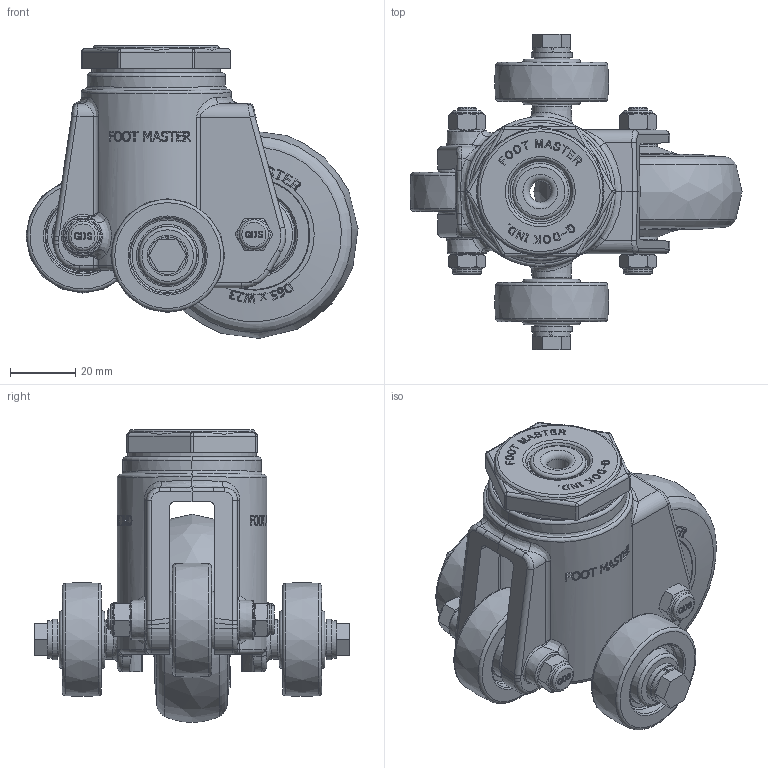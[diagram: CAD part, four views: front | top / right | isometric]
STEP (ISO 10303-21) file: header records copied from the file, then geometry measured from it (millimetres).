
FILE_DESCRIPTION(/* description */ (''),/* implementation_level */ '2;1');
FILE_NAME(/* name */ '\\192.168.10.38\지덕공유\1.기술연구소\2.연구개발 진행중\117.Step Wheel Caster_2024.11.02\1.도면\1.3D\GAMR-65-ASF_신규\GSTEP-65-ASS-EUS 홈페이지용.stp',/* time_stamp */ '2025-12-04T18:34:43+09:00',/* author */ ('admin'),/* organization */ (''),/* preprocessor_version */ 'ST-DEVELOPER v18.1',/* originating_system */ 'Autodesk Inventor 2021',/* authorisation */ '');
FILE_SCHEMA (('CONFIG_CONTROL_DESIGN'));
Products named in the file (1): GSTEP-65-ASS-EUS 홈페이지용_Shrinkwr
ap_1
Bounding box: 101.96 x 96.8 x 89.95 mm (x, y, z)
Volume: 170521.2 mm3; surface area: 45470.9 mm2
Topology: 1 solids, 1 shells, 1462 faces, 3955 edges, 2599 vertices
Faces by surface type: plane 637, bspline 525, cylinder 120, cone 98, torus 76, sphere 6
Full cylindrical faces by diameter (mm): 4.917 x2, 6 x4, 6.4 x1, 6.6 x2, 6.647 x1, 7.4 x1, 8.8 x2, 9 x2, 11 x2, 12.5 x2, 17.2 x1, 25 x2, 39.5 x1
Entity records: 54762 total; most frequent: CARTESIAN_POINT 19958, ORIENTED_EDGE 7902, DIRECTION 5356, EDGE_CURVE 3951, VERTEX_POINT 2599, LINE 1832, VECTOR 1832, AXIS2_PLACEMENT_3D 1762
